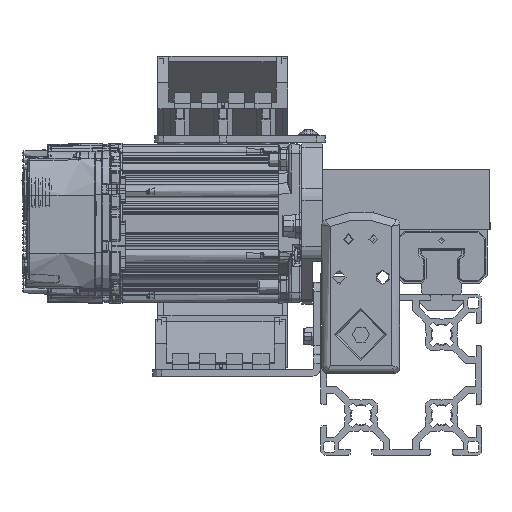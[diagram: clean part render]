
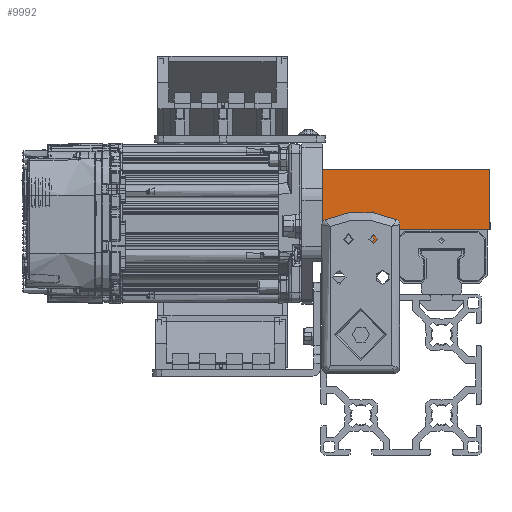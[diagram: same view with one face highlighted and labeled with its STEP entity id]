
A CAD part, front view. The second image highlights one B-rep face of the part: STEP entity #9992.
In plain terms, the highlighted planar face has unit normal (0, -1, 0) as drawn and (1, 0, 0) by its records, which use the part's own axes.
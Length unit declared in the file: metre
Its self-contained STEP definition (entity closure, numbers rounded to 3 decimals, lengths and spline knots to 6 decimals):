
#9992 = ADVANCED_FACE( '', ( #23428 ), #23429, .F. );
#23428 = FACE_OUTER_BOUND( '', #54104, .T. );
#23429 = PLANE( '', #54105 );
#54104 = EDGE_LOOP( '', ( #128209, #128210, #128211, #128212, #128213, #128214, #128215, #128216, #128217, #128218, #128219, #128220 ) );
#54105 = AXIS2_PLACEMENT_3D( '', #128221, #128222, #128223 );
#128209 = ORIENTED_EDGE( '', *, *, #171007, .F. );
#128210 = ORIENTED_EDGE( '', *, *, #171008, .F. );
#128211 = ORIENTED_EDGE( '', *, *, #167723, .T. );
#128212 = ORIENTED_EDGE( '', *, *, #171009, .T. );
#128213 = ORIENTED_EDGE( '', *, *, #171010, .T. );
#128214 = ORIENTED_EDGE( '', *, *, #171011, .F. );
#128215 = ORIENTED_EDGE( '', *, *, #171012, .F. );
#128216 = ORIENTED_EDGE( '', *, *, #171013, .F. );
#128217 = ORIENTED_EDGE( '', *, *, #171014, .T. );
#128218 = ORIENTED_EDGE( '', *, *, #171015, .T. );
#128219 = ORIENTED_EDGE( '', *, *, #171016, .F. );
#128220 = ORIENTED_EDGE( '', *, *, #171017, .F. );
#128221 = CARTESIAN_POINT( '', ( 0.055, -0.01778, 0.021613 ) );
#128222 = DIRECTION( '', ( -1., 0., 0. ) );
#128223 = DIRECTION( '', ( 0., 0., -1. ) );
#167723 = EDGE_CURVE( '', #188586, #188587, #188588, .T. );
#171007 = EDGE_CURVE( '', #194131, #194132, #194133, .T. );
#171008 = EDGE_CURVE( '', #188586, #194131, #194134, .T. );
#171009 = EDGE_CURVE( '', #188587, #194135, #194136, .T. );
#171010 = EDGE_CURVE( '', #194135, #194137, #194138, .T. );
#171011 = EDGE_CURVE( '', #194139, #194137, #194140, .T. );
#171012 = EDGE_CURVE( '', #194141, #194139, #194142, .T. );
#171013 = EDGE_CURVE( '', #194143, #194141, #194144, .T. );
#171014 = EDGE_CURVE( '', #194143, #194145, #194146, .T. );
#171015 = EDGE_CURVE( '', #194145, #194147, #194148, .T. );
#171016 = EDGE_CURVE( '', #194149, #194147, #194150, .T. );
#171017 = EDGE_CURVE( '', #194132, #194149, #194151, .T. );
#188586 = VERTEX_POINT( '', #226347 );
#188587 = VERTEX_POINT( '', #226348 );
#188588 = LINE( '', #226349, #226350 );
#194131 = VERTEX_POINT( '', #240687 );
#194132 = VERTEX_POINT( '', #240688 );
#194133 = LINE( '', #240689, #240690 );
#194134 = LINE( '', #240691, #240692 );
#194135 = VERTEX_POINT( '', #240693 );
#194136 = CIRCLE( '', #240694, 0.002083 );
#194137 = VERTEX_POINT( '', #240695 );
#194138 = LINE( '', #240696, #240697 );
#194139 = VERTEX_POINT( '', #240698 );
#194140 = LINE( '', #240699, #240700 );
#194141 = VERTEX_POINT( '', #240701 );
#194142 = LINE( '', #240702, #240703 );
#194143 = VERTEX_POINT( '', #240704 );
#194144 = LINE( '', #240705, #240706 );
#194145 = VERTEX_POINT( '', #240707 );
#194146 = LINE( '', #240708, #240709 );
#194147 = VERTEX_POINT( '', #240710 );
#194148 = LINE( '', #240711, #240712 );
#194149 = VERTEX_POINT( '', #240713 );
#194150 = LINE( '', #240714, #240715 );
#194151 = LINE( '', #240716, #240717 );
#226347 = CARTESIAN_POINT( '', ( 0.055, -0.01778, 0.019894 ) );
#226348 = CARTESIAN_POINT( '', ( 0.055, -0.016431, 0.019894 ) );
#226349 = CARTESIAN_POINT( '', ( 0.055, -0.01778, 0.019894 ) );
#226350 = VECTOR( '', #292724, 1. );
#240687 = CARTESIAN_POINT( '', ( 0.055, -0.01778, 0.022375 ) );
#240688 = CARTESIAN_POINT( '', ( 0.055, -0.019914, 0.022375 ) );
#240689 = CARTESIAN_POINT( '', ( 0.055, -0.01778, 0.022375 ) );
#240690 = VECTOR( '', #297019, 1. );
#240691 = CARTESIAN_POINT( '', ( 0.055, -0.01778, 0.021613 ) );
#240692 = VECTOR( '', #297020, 1. );
#240693 = CARTESIAN_POINT( '', ( 0.055, -0.016431, 0.016894 ) );
#240694 = AXIS2_PLACEMENT_3D( '', #297021, #297022, #297023 );
#240695 = CARTESIAN_POINT( '', ( 0.055, -0.01778, 0.016894 ) );
#240696 = CARTESIAN_POINT( '', ( 0.055, -0.01778, 0.016894 ) );
#240697 = VECTOR( '', #297024, 1. );
#240698 = CARTESIAN_POINT( '', ( 0.055, -0.01778, 0.01339 ) );
#240699 = CARTESIAN_POINT( '', ( 0.055, -0.01778, 0.021613 ) );
#240700 = VECTOR( '', #297025, 1. );
#240701 = CARTESIAN_POINT( '', ( 0.055, -0.00473, 0.01339 ) );
#240702 = CARTESIAN_POINT( '', ( 0.055, -0.01778, 0.01339 ) );
#240703 = VECTOR( '', #297026, 1. );
#240704 = CARTESIAN_POINT( '', ( 0.055, -0.00473, -0.021613 ) );
#240705 = CARTESIAN_POINT( '', ( 0.055, -0.00473, -0.021613 ) );
#240706 = VECTOR( '', #297027, 1. );
#240707 = CARTESIAN_POINT( '', ( 0.055, 0.01778, -0.021613 ) );
#240708 = CARTESIAN_POINT( '', ( 0.055, -0.01778, -0.021613 ) );
#240709 = VECTOR( '', #297028, 1. );
#240710 = CARTESIAN_POINT( '', ( 0.055, 0.01778, 0.040727 ) );
#240711 = CARTESIAN_POINT( '', ( 0.055, 0.01778, 0.021613 ) );
#240712 = VECTOR( '', #297029, 1. );
#240713 = CARTESIAN_POINT( '', ( 0.055, -0.019914, 0.040727 ) );
#240714 = CARTESIAN_POINT( '', ( 0.055, -0.00696, 0.040727 ) );
#240715 = VECTOR( '', #297030, 1. );
#240716 = CARTESIAN_POINT( '', ( 0.055, -0.019914, 0.003976 ) );
#240717 = VECTOR( '', #297031, 1. );
#292724 = DIRECTION( '', ( 0., 1., 0. ) );
#297019 = DIRECTION( '', ( 0., -1., 0. ) );
#297020 = DIRECTION( '', ( 0., 0., 1. ) );
#297021 = CARTESIAN_POINT( '', ( 0.055, -0.014986, 0.018394 ) );
#297022 = DIRECTION( '', ( -1., 0., 0. ) );
#297023 = DIRECTION( '', ( 0., 0., -1. ) );
#297024 = DIRECTION( '', ( 0., -1., 0. ) );
#297025 = DIRECTION( '', ( 0., 0., 1. ) );
#297026 = DIRECTION( '', ( 0., -1., 0. ) );
#297027 = DIRECTION( '', ( 0., 0., 1. ) );
#297028 = DIRECTION( '', ( 0., 1., 0. ) );
#297029 = DIRECTION( '', ( 0., 0., 1. ) );
#297030 = DIRECTION( '', ( 0., 1., 0. ) );
#297031 = DIRECTION( '', ( 0., 0., 1. ) );
